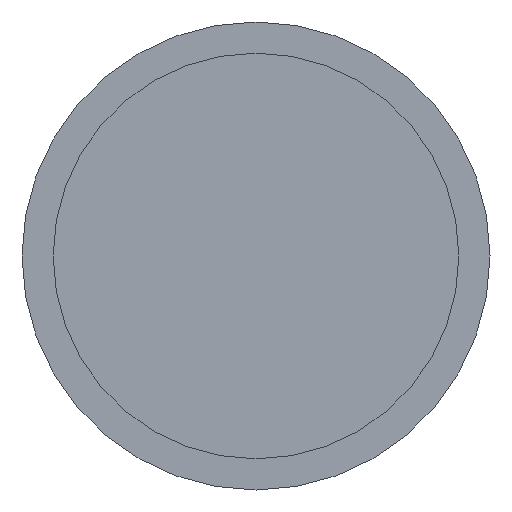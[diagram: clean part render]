
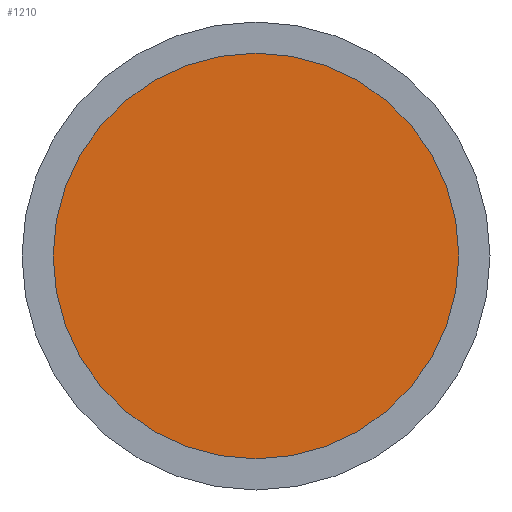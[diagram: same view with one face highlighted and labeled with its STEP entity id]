
A CAD part, front view. The second image highlights one B-rep face of the part: STEP entity #1210.
In plain terms, the highlighted planar face has unit normal (0, -1, 0).
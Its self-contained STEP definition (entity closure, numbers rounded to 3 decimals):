
#128 = AXIS2_PLACEMENT_3D ( 'NONE', #3300, #3273, #1883 ) ;
#993 = CIRCLE ( 'NONE', #2533, 65. ) ;
#1181 = ORIENTED_EDGE ( 'NONE', *, *, #3122, .F. ) ;
#1210 = ADVANCED_FACE ( 'NONE', ( #2445 ), #2667, .F. ) ;
#1258 = EDGE_CURVE ( 'NONE', #2541, #3033, #2605, .T. ) ;
#1523 = DIRECTION ( 'NONE',  ( 0., 0., 1. ) ) ;
#1665 = CARTESIAN_POINT ( 'NONE',  ( 0., 0., 65. ) ) ;
#1766 = CARTESIAN_POINT ( 'NONE',  ( 0., 0., 0. ) ) ;
#1831 = CARTESIAN_POINT ( 'NONE',  ( 0., 0., 0. ) ) ;
#1873 = EDGE_LOOP ( 'NONE', ( #3469, #1181 ) ) ;
#1883 = DIRECTION ( 'NONE',  ( 0., 0., 1. ) ) ;
#2133 = DIRECTION ( 'NONE',  ( 0., 1., 0. ) ) ;
#2445 = FACE_OUTER_BOUND ( 'NONE', #1873, .T. ) ;
#2533 = AXIS2_PLACEMENT_3D ( 'NONE', #1766, #2845, #2902 ) ;
#2541 = VERTEX_POINT ( 'NONE', #3379 ) ;
#2605 = CIRCLE ( 'NONE', #2910, 65. ) ;
#2667 = PLANE ( 'NONE',  #128 ) ;
#2845 = DIRECTION ( 'NONE',  ( 0., 1., 0. ) ) ;
#2902 = DIRECTION ( 'NONE',  ( 0., 0., 1. ) ) ;
#2910 = AXIS2_PLACEMENT_3D ( 'NONE', #1831, #2133, #1523 ) ;
#3033 = VERTEX_POINT ( 'NONE', #1665 ) ;
#3122 = EDGE_CURVE ( 'NONE', #3033, #2541, #993, .T. ) ;
#3273 = DIRECTION ( 'NONE',  ( 0., 1., 0. ) ) ;
#3300 = CARTESIAN_POINT ( 'NONE',  ( 0., 0., 0. ) ) ;
#3379 = CARTESIAN_POINT ( 'NONE',  ( 0., 0., -65. ) ) ;
#3469 = ORIENTED_EDGE ( 'NONE', *, *, #1258, .F. ) ;
